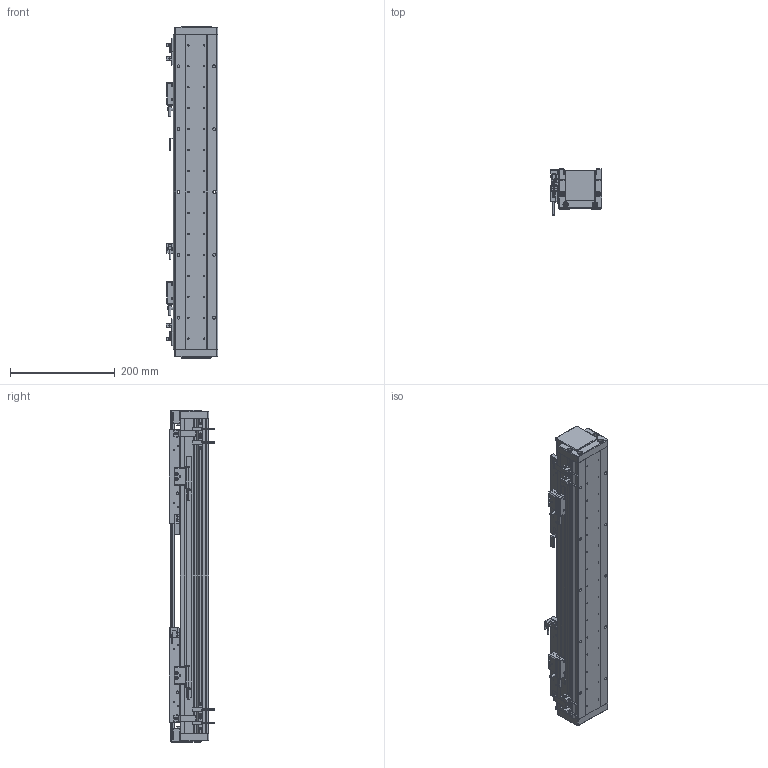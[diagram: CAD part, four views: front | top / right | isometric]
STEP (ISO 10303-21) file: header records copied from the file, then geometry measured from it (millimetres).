
FILE_DESCRIPTION (( 'STEP AP203' ), '1' );
FILE_NAME ('DA-A82-2-B2-T180-C010-0.2 眻盄萇儂.STEP', '2025-08-13T02:27:13', ( '' ), ( '' ), 'SwSTEP 2.0', 'SolidWorks 2019', '' );
FILE_SCHEMA (( 'CONFIG_CONTROL_DESIGN' ));
Length unit declared in the file: millimetre
Products named in the file (27): 复件 DA82-GYP-ZJ-00 中间光电感应片^DA-A82-B2-T-C010-0.2-N 直线电机; 复件 BKM02-W040-C1-TP-DA-3.0 直线电机动子^DA-A82-B2-T-C010-0.2-N 直线电机; AU82-HT-M-00 賑雄怢啣; DA-A60-GYP-DMT-00 光电感应片^DA-A82-B2-T-C010-0.2-N 直线电机(默认); DA-A82-2-B2-T180-C010-0.2 眻盄萇儂; 复件 DA82-T-002-00 盖板^DA-A82-B2-T-C010-0.2-N 直线电机; 复件 DKW-GJ-XJ-00 防撞橡胶^DA-A82-B2-T-C010-0.2-N 直线电机; 葩璃 DA82-B2-DP-00 結え^AU82-M 幗紩賑怢; 复件 DA82-DG-H-N-00 端盖^DA-A82-B2-T-C010-0.2-N 直线电机(默认_按加工_); 葩璃 PM-L25^DA-A82-B2-T-C010-0.2-N 眻盄萇儂; 复件 六角薄螺母 M3^DA-A82-B2-T-C010-0.2-N 直线电机; 复件 DA82-GDZ-ZJ-00 中间光电固定座^DA-A82-B2-T-C010-0.2-N 直线电机; AU82-M 幗紩賑怢-1; AU82-M 幗紩賑怢; 复件 DA95-B2-GT-00 滑块钢轨^AU82-M-00 一体化滑动台板; 葩璃 BKM01-W040-TRL^DA-A82-B2-T-C010-0.2-N 眻盄萇儂; AU82-M-00 珨极趙賑雄怢啣; IU-AU82-L 菁釱絳寢; 复件 复件 DA82-XJ-00 缓冲橡胶^DA-A82-B2-T-C010-0.2-N 直线电机; 复件 DA95-GT-T-00 底座钢轨^IU-AU82-L 底座导轨; 葩璃 PM-T45^DA-A82-B2-T-C010-0.2-N 眻盄萇儂; 葩璃 DMT-010 1米m 0.2M^DA-A82-B2-T-C010-0.2-N 眻盄萇儂; 复件 XD-U-02  磁栅尺^DA-A82-B2-T-C010-0.2-N 直线电机; AU82-M-00 珨极趙賑雄怢啣-1; IU-AU82-L-00 菁釱(L600); 复件 DA60-DMT-DTJ-00 读数头支架^DA-A82-B2-T-C010-0.2-N 直线电机; 复件 纯铜油杯 6x6mm^AU82-M 滚珠滑台
Assembly tree (57 placements, depth 4):
  DA-A82-2-B2-T180-C010-0.2 眻盄萇儂
    IU-AU82-L 菁釱絳寢
      IU-AU82-L-00 菁釱(L600)
      复件 DA95-GT-T-00 底座钢轨^IU-AU82-L 底座导轨  x2
    AU82-M 幗紩賑怢
      AU82-M-00 珨极趙賑雄怢啣
        AU82-HT-M-00 賑雄怢啣
        复件 DA95-B2-GT-00 滑块钢轨^AU82-M-00 一体化滑动台板  x4
      葩璃 DA82-B2-DP-00 結え^AU82-M 幗紩賑怢  x2
      复件 纯铜油杯 6x6mm^AU82-M 滚珠滑台  x2
    AU82-M 幗紩賑怢-1
      AU82-M-00 珨极趙賑雄怢啣-1
        AU82-HT-M-00 賑雄怢啣
        复件 DA95-B2-GT-00 滑块钢轨^AU82-M-00 一体化滑动台板  x4
      葩璃 DA82-B2-DP-00 結え^AU82-M 幗紩賑怢  x2
      复件 纯铜油杯 6x6mm^AU82-M 滚珠滑台  x2
    复件 BKM02-W040-C1-TP-DA-3.0 直线电机动子^DA-A82-B2-T-C010-0.2-N 直线电机  x2
    复件 DA60-DMT-DTJ-00 读数头支架^DA-A82-B2-T-C010-0.2-N 直线电机  x2
    葩璃 DMT-010 1米m 0.2M^DA-A82-B2-T-C010-0.2-N 眻盄萇儂  x2
    DA-A60-GYP-DMT-00 光电感应片^DA-A82-B2-T-C010-0.2-N 直线电机(默认)  x2
    复件 DA82-GDZ-ZJ-00 中间光电固定座^DA-A82-B2-T-C010-0.2-N 直线电机
    葩璃 PM-L25^DA-A82-B2-T-C010-0.2-N 眻盄萇儂
    复件 DA82-GYP-ZJ-00 中间光电感应片^DA-A82-B2-T-C010-0.2-N 直线电机
    复件 DKW-GJ-XJ-00 防撞橡胶^DA-A82-B2-T-C010-0.2-N 直线电机
    复件 复件 DA82-XJ-00 缓冲橡胶^DA-A82-B2-T-C010-0.2-N 直线电机  x2
    复件 DA82-DG-H-N-00 端盖^DA-A82-B2-T-C010-0.2-N 直线电机(默认_按加工_)  x2
    复件 DA82-T-002-00 盖板^DA-A82-B2-T-C010-0.2-N 直线电机
    葩璃 BKM01-W040-TRL^DA-A82-B2-T-C010-0.2-N 眻盄萇儂
    葩璃 PM-T45^DA-A82-B2-T-C010-0.2-N 眻盄萇儂  x4
    复件 XD-U-02  磁栅尺^DA-A82-B2-T-C010-0.2-N 直线电机
    复件 六角薄螺母 M3^DA-A82-B2-T-C010-0.2-N 直线电机  x8
Bounding box: 98.95 x 87.2 x 634 mm (x, y, z)
Volume: 2697029 mm3; surface area: 744214.8 mm2
Topology: 66 solids, 114 shells, 2939 faces, 7423 edges, 4544 vertices
Faces by surface type: cylinder 1221, plane 1208, cone 436, torus 46, bspline 20, sphere 8
Entity records: 53613 total; most frequent: CARTESIAN_POINT 11024, DIRECTION 8396, ORIENTED_EDGE 7798, EDGE_CURVE 3899, AXIS2_PLACEMENT_3D 3113, VERTEX_POINT 2515, VECTOR 2170, LINE 2170
